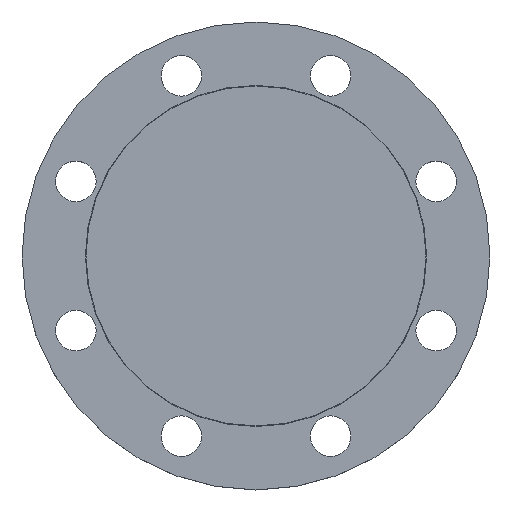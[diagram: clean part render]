
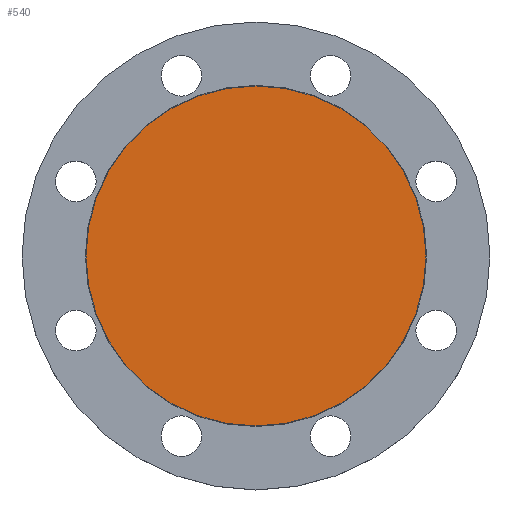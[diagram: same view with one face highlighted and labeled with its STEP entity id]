
A CAD part, top view. The second image highlights one B-rep face of the part: STEP entity #540.
In plain terms, the highlighted planar face has unit normal (0, 0, 1).
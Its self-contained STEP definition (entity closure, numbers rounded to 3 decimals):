
#16 = CIRCLE ( 'NONE', #17, 109. ) ;
#17 = AXIS2_PLACEMENT_3D ( 'NONE', #504, #506, #507 ) ;
#82 = CARTESIAN_POINT ( 'NONE',  ( -109., 0., 0. ) ) ;
#137 = CIRCLE ( 'NONE', #435, 109. ) ;
#244 = EDGE_CURVE ( 'NONE', #658, #859, #16, .T. ) ;
#251 = CARTESIAN_POINT ( 'NONE',  ( 109., 0., 0. ) ) ;
#295 = DIRECTION ( 'NONE',  ( 1., 0., 0. ) ) ;
#296 = DIRECTION ( 'NONE',  ( 0., 0., 1. ) ) ;
#298 = CARTESIAN_POINT ( 'NONE',  ( 0., 0., 0. ) ) ;
#299 = PLANE ( 'NONE',  #840 ) ;
#302 = FACE_OUTER_BOUND ( 'NONE', #482, .T. ) ;
#326 = EDGE_CURVE ( 'NONE', #859, #658, #137, .T. ) ;
#435 = AXIS2_PLACEMENT_3D ( 'NONE', #538, #543, #544 ) ;
#482 = EDGE_LOOP ( 'NONE', ( #761, #762 ) ) ;
#504 = CARTESIAN_POINT ( 'NONE',  ( 0., 0., 0. ) ) ;
#506 = DIRECTION ( 'NONE',  ( 0., 0., -1. ) ) ;
#507 = DIRECTION ( 'NONE',  ( -1., 0., 0. ) ) ;
#538 = CARTESIAN_POINT ( 'NONE',  ( 0., 0., 0. ) ) ;
#540 = ADVANCED_FACE ( 'NONE', ( #302 ), #299, .T. ) ;
#543 = DIRECTION ( 'NONE',  ( 0., 0., -1. ) ) ;
#544 = DIRECTION ( 'NONE',  ( -1., 0., 0. ) ) ;
#658 = VERTEX_POINT ( 'NONE', #251 ) ;
#761 = ORIENTED_EDGE ( 'NONE', *, *, #326, .F. ) ;
#762 = ORIENTED_EDGE ( 'NONE', *, *, #244, .F. ) ;
#840 = AXIS2_PLACEMENT_3D ( 'NONE', #298, #296, #295 ) ;
#859 = VERTEX_POINT ( 'NONE', #82 ) ;
